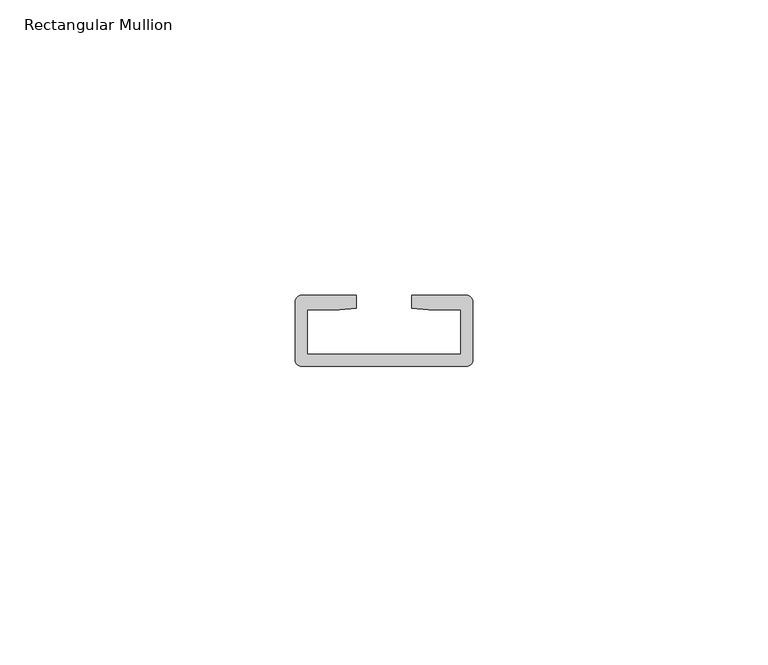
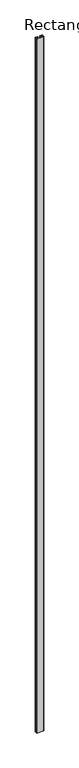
"""IFC4 building model written with IfcOpenShell, lengths in millimetres: member geometry, Rectangular Mullion : RSen_21_CWM_support profile - 30x12 - left_duco projects."""

from ifc_helpers import new_model, si_unit, point, frame, frame_2d, origin, place, context, project, spatial, polyline, circle_curve, trimmed, segment, composite_curve, outline, extrude, source, transform, mapped, element, save


def rectangular_mullion_fbfb117e(model_context):
    return source(origin(), model_context, "Body", "SweptSolid", [
        extrude(outline(composite_curve([segment(polyline([(-69.6571812, 1.0), (-69.6571812, -1.2), (-72.5399662, -1.401584), (-78.0, -1.401584), (-78.0, -9.0), (-52.0, -9.0), (-52.0, -1.401584), (-57.4600338, -1.401584), (-60.3428188, -1.2), (-60.3428188, 1.0), (-51.0, 1.0)]), True, "CONTINUOUS"), segment(trimmed(circle_curve(frame_2d((-51.0, 0.0)), 1.0), [point((-51.0, 1.0))], [point((-50.0, 0.0))], False, "CARTESIAN"), True, "CONTINUOUS"), segment(polyline([(-50.0, 0.0), (-50.0, -10.0)]), True, "CONTINUOUS"), segment(trimmed(circle_curve(frame_2d((-51.0, -10.0)), 1.0), [point((-50.0, -10.0))], [point((-51.0, -11.0))], False, "CARTESIAN"), True, "CONTINUOUS"), segment(polyline([(-51.0, -11.0), (-79.0, -11.0)]), True, "CONTINUOUS"), segment(trimmed(circle_curve(frame_2d((-79.0, -10.0)), 1.0), [point((-79.0, -11.0))], [point((-80.0, -10.0))], False, "CARTESIAN"), True, "CONTINUOUS"), segment(polyline([(-80.0, -10.0), (-80.0, 0.0)]), True, "CONTINUOUS"), segment(trimmed(circle_curve(frame_2d((-79.0, 0.0)), 1.0), [point((-80.0, 0.0))], [point((-79.0, 1.0))], False, "CARTESIAN"), True, "CONTINUOUS"), segment(polyline([(-79.0, 1.0), (-69.6571812, 1.0)]), True, "CONTINUOUS")], self_intersect=False)), frame((0.0, 0.0, -3000.0), z_axis=(0.0, 0.0, 1.0), x_axis=(1.0, 0.0, 0.0)), (0.0, 0.0, 1.0), 3000.0),
    ])


if __name__ == "__main__":
    model = new_model("IFC4")
    model_context = context("Model", 3, world=origin())
    ifc_project = project(units=[si_unit("LENGTHUNIT", "METRE", prefix="MILLI")], contexts=[model_context])
    site = spatial("IfcSite", under=ifc_project)
    building = spatial("IfcBuilding", under=site)
    placement = place(None, origin())
    rectangular_mullion_shape = rectangular_mullion_fbfb117e(model_context)
    element("IfcMember", 1, ObjectType="Rectangular Mullion : RSen_21_CWM_support profile - 30x12 - left_duco projects", at=placement, inside=building, context=model_context, shape_type="MappedRepresentation", body=[
        mapped(rectangular_mullion_shape, transform((0.0, 0.0, 0.0), x_axis=(1.0, 0.0, 0.0), y_axis=(0.0, 1.0, 0.0), z_axis=(0.0, 0.0, 1.0))),
    ])
    save(model, "model.ifc")
